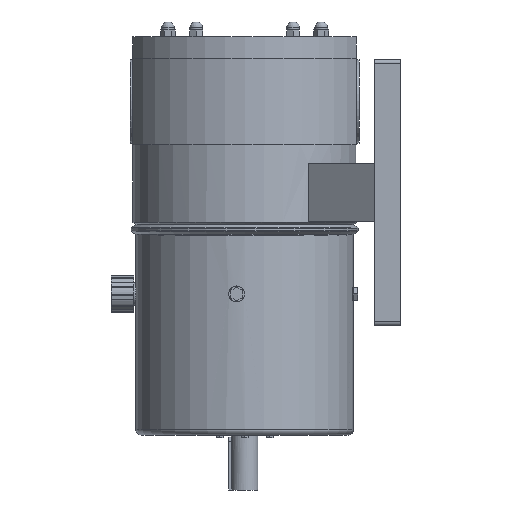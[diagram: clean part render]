
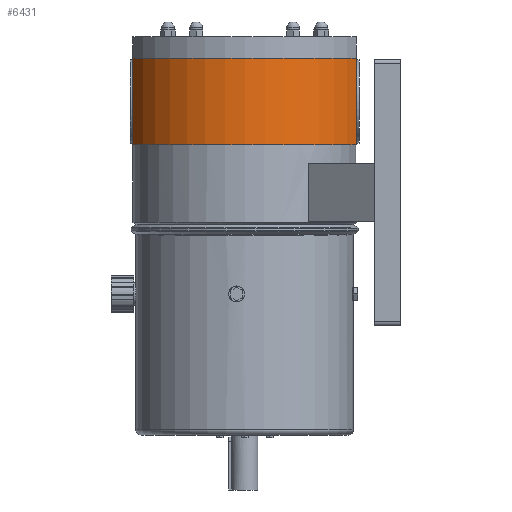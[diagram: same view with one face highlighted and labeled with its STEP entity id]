
A CAD part, left-side view. The second image highlights one B-rep face of the part: STEP entity #6431.
In plain terms, the highlighted cylindrical face has radius 231 mm (diameter 462 mm), a partial arc.
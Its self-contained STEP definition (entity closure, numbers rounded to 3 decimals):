
#2302=CARTESIAN_POINT('',(-96.234,-210.,-202.28));
#2303=VERTEX_POINT('',#2302);
#2311=CARTESIAN_POINT('',(-96.234,210.,-202.28));
#2312=VERTEX_POINT('',#2311);
#2313=CARTESIAN_POINT('',(0.0,0.0,-202.28));
#2314=DIRECTION('',(0.0,0.0,1.0));
#2315=DIRECTION('',(-1.0,0.0,0.0));
#2316=AXIS2_PLACEMENT_3D('',#2313,#2314,#2315);
#2317=CIRCLE('',#2316,231.0);
#2318=EDGE_CURVE('',#2312,#2303,#2317,.T.);
#2385=CARTESIAN_POINT('',(-96.234,-210.0,-50.0));
#2386=VERTEX_POINT('',#2385);
#2393=CARTESIAN_POINT('',(-96.234,-210.,-202.28));
#2394=DIRECTION('',(0.0,0.0,1.0));
#2395=VECTOR('',#2394,152.28);
#2396=LINE('',#2393,#2395);
#2397=EDGE_CURVE('',#2303,#2386,#2396,.T.);
#2409=CARTESIAN_POINT('',(-96.234,-210.0,-40.0));
#2410=VERTEX_POINT('',#2409);
#2417=CARTESIAN_POINT('',(-96.234,-210.0,-40.0));
#2418=DIRECTION('',(0.0,0.0,-1.0));
#2419=VECTOR('',#2418,10.0);
#2420=LINE('',#2417,#2419);
#2421=EDGE_CURVE('',#2410,#2386,#2420,.T.);
#2433=CARTESIAN_POINT('',(-96.234,210.0,-40.0));
#2434=VERTEX_POINT('',#2433);
#2441=CARTESIAN_POINT('',(0.0,0.0,-40.0));
#2442=DIRECTION('',(0.0,0.0,-1.0));
#2443=DIRECTION('',(-0.417,0.909,0.0));
#2444=AXIS2_PLACEMENT_3D('',#2441,#2442,#2443);
#2445=CIRCLE('',#2444,231.0);
#2446=EDGE_CURVE('',#2410,#2434,#2445,.T.);
#2703=CARTESIAN_POINT('',(-96.234,210.0,-50.0));
#2704=VERTEX_POINT('',#2703);
#2705=CARTESIAN_POINT('',(-96.234,210.0,-50.0));
#2706=DIRECTION('',(0.0,0.0,-1.0));
#2707=VECTOR('',#2706,152.28);
#2708=LINE('',#2705,#2707);
#2709=EDGE_CURVE('',#2704,#2312,#2708,.T.);
#6408=CARTESIAN_POINT('',(-96.234,210.0,-40.0));
#6409=DIRECTION('',(0.0,0.0,-1.0));
#6410=VECTOR('',#6409,10.0);
#6411=LINE('',#6408,#6410);
#6412=EDGE_CURVE('',#2434,#2704,#6411,.T.);
#6418=CARTESIAN_POINT('',(0.0,0.0,0.0));
#6419=DIRECTION('',(0.0,0.0,-1.0));
#6420=DIRECTION('',(-0.417,0.909,0.0));
#6421=AXIS2_PLACEMENT_3D('',#6418,#6419,#6420);
#6422=CYLINDRICAL_SURFACE('',#6421,231.);
#6423=ORIENTED_EDGE('',*,*,#2446,.T.);
#6424=ORIENTED_EDGE('',*,*,#6412,.T.);
#6425=ORIENTED_EDGE('',*,*,#2709,.T.);
#6426=ORIENTED_EDGE('',*,*,#2318,.T.);
#6427=ORIENTED_EDGE('',*,*,#2397,.T.);
#6428=ORIENTED_EDGE('',*,*,#2421,.F.);
#6429=EDGE_LOOP('',(#6423,#6424,#6425,#6426,#6427,#6428));
#6430=FACE_OUTER_BOUND('',#6429,.T.);
#6431=ADVANCED_FACE('',(#6430),#6422,.T.);
